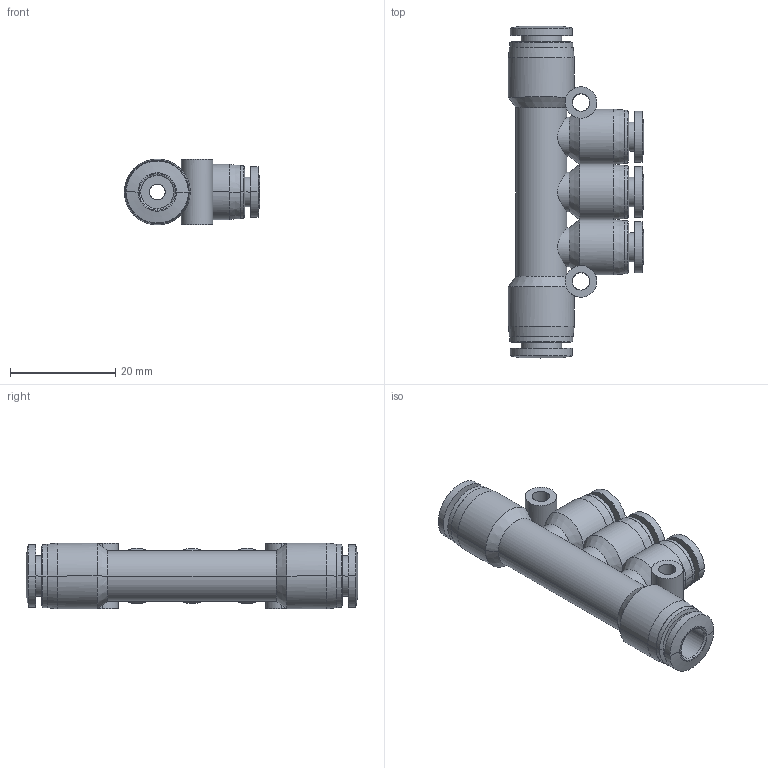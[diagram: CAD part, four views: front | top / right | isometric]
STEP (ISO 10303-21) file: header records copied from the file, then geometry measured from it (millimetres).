
FILE_DESCRIPTION (( 'STEP AP203' ), '1' );
FILE_NAME ('FRG06-04.STEP', '2020-05-12T14:58:12', ( '' ), ( '' ), 'SwSTEP 2.0', 'SolidWorks 2019', '' );
FILE_SCHEMA (( 'CONFIG_CONTROL_DESIGN' ));
Length unit declared in the file: millimetre
Products named in the file (1): FRG06-04
Bounding box: 25.7 x 63.1 x 12.5 mm (x, y, z)
Volume: 7540.6 mm3; surface area: 6523.5 mm2
Topology: 1 solids, 1 shells, 153 faces, 358 edges, 222 vertices
Faces by surface type: cylinder 74, cone 40, plane 29, bspline 10
Entity records: 8844 total; most frequent: CARTESIAN_POINT 5803, ORIENTED_EDGE 716, DIRECTION 406, EDGE_CURVE 358, VERTEX_POINT 222, B_SPLINE_CURVE_WITH_KNOTS 214, EDGE_LOOP 184, FACE_OUTER_BOUND 153
